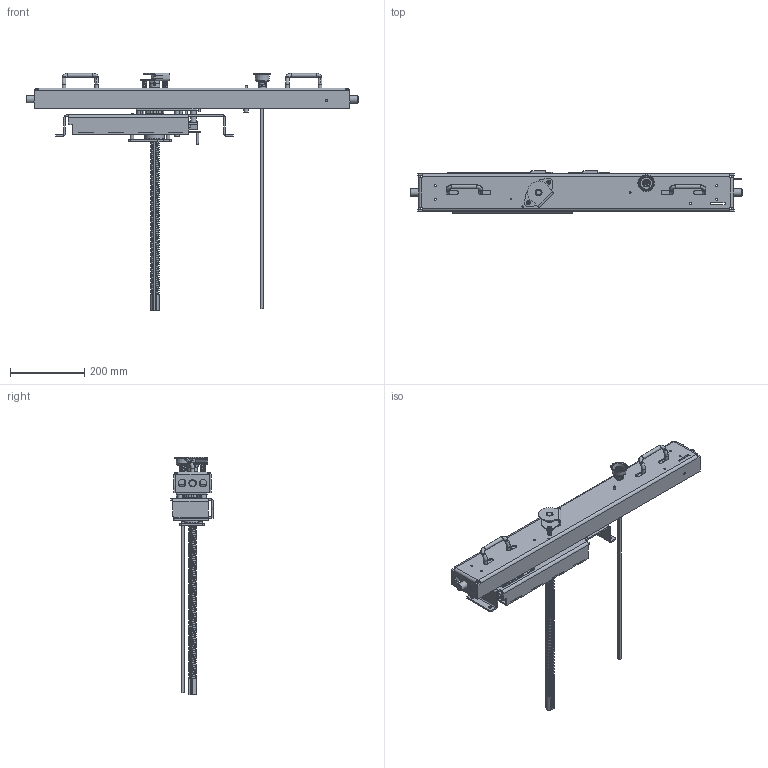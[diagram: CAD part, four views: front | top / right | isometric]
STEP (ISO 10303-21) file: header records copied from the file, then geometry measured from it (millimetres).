
FILE_DESCRIPTION(('STEP AP242'), '1');
FILE_NAME('ﾒﾂﾂ-ﾗﾝﾀﾇ-35', '', ('UNSPECIFIED'), ('UNSPECIFIED'), 'C3D Converter', 'C3D Toolkit', '');
FILE_SCHEMA(('AP242_MANAGED_MODEL_BASED_3D_ENGINEERING_MIM_LF { 1 0 10303 442 1 1 4 }'));
Length unit declared in the file: millimetre
Products named in the file (52): TB-35-OptiMat-BB; MV61C-L4506; НЖёЛA; MV61C-L4531; MV61C-L4505; Оў跚X2\040704570404211604280419041F04510417\X0\A; MV61C-L3511; MV61C-L4509; Оў跚X2\04070457040421160428\X0\琵X2\0427\X0\豹X2\0435\X0\A; MV61C-L3513; MV61C-L4508ЈЁС№ｻЙЈｩ; MV61C-L3510; MV61C-L4504ЈЁЛшｶ\X2\04X0041C04270408\X0\ｩ; 8.240.014; MV61C-L4526; MV61C-L4503; GTJ.8XJ.062.071.2; MV61C-L3504; MV61C-L4525; MV61C-L3506; miniature radial ball bearings gb_Rolling bearings FF61800  GB 7218-1995; MV61C-L3505; MV61C-L4522; MV61C-L4513; MV61C-L3502; MV61C-L4534; MV61C-L4511; 跚X2\0401041E\X0\蓋X2\041F044A\X0\; MV61C-L4533; MV61C-L3501; MV61C-L4540; MV61C-L3508; MV61C-L3501.1ЈЁｰОїйЈｩ; MV61C-L4523; MV61C-L3507.2; MV61C-L4501; 8XS.966.031; MV61C-L4539; 20130530; 8XS.253.076 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
Assembly tree (66 placements, depth 2):
  TB-35-OptiMat-BB
    MV61C-L4506
    НЖёЛA  x2
    MV61C-L4531  x2
    MV61C-L4505
    Оў跚X2\040704570404211604280419041F04510417\X0\A  x2
    MV61C-L3511
    MV61C-L4509
    Оў跚X2\04070457040421160428\X0\琵X2\0427\X0\豹X2\0435\X0\A  x2
    MV61C-L3513
    MV61C-L4508ЈЁС№ｻЙЈｩ
    MV61C-L3510
    MV61C-L4504ЈЁЛшｶ\X2\04X0041C04270408\X0\ｩ
    8.240.014
    MV61C-L4526
    MV61C-L4503
    GTJ.8XJ.062.071.2
    MV61C-L3504
    MV61C-L4525
    MV61C-L3506
    miniature radial ball bearings gb_Rolling bearings FF61800  GB 7218-1995  x2
    MV61C-L3505
    MV61C-L4522
    MV61C-L4513
    MV61C-L3502  x2
    MV61C-L4534
    MV61C-L4511  x2
    跚X2\0401041E\X0\蓋X2\041F044A\X0\  x4
    MV61C-L4533
    MV61C-L3501
    MV61C-L4540
    MV61C-L3508
    MV61C-L3501.1ЈЁｰОїйЈｩ
    MV61C-L4523
    MV61C-L3507.2
    MV61C-L4501
    8XS.966.031  x2
    MV61C-L4539
    20130530
    8XS.253.076   x2
    MV61C-L4529
    MV61C-L3509.5
    MV61C-L4528
    MV61C-L4510  x2
    MV61C-L4532
    MV61C-L4530
    MV61C-L4520
    MV61C-L3512
    MV61C-L3503
    MV61C-L4521
    MV61C-L4527  x2
    MV61C-L4512  x2
Bounding box: 893 x 115 x 640 mm (x, y, z)
Volume: 2202218.4 mm3; surface area: 1104659.5 mm2
Topology: 68 solids, 68 shells, 2878 faces, 8477 edges, 5598 vertices
Faces by surface type: cylinder 1359, plane 948, bspline 366, torus 120, cone 61, sphere 24
Full cylindrical faces by diameter (mm): 2 x3, 2.5 x1, 2.8 x2, 3 x16, 4 x7, 4.3 x8, 5 x41, 5.1 x5, 5.2 x7, 5.3 x1, 5.4 x2, 5.5 x16, 6 x11, 6.1 x2, 6.2 x8, 7.3 x1, 7.7 x2, 8 x17, 8.2 x4, 8.3 x4, 8.5 x13, 9.3 x2, 9.5 x1, 10 x19, 10.2 x1, 10.5 x2, 11 x8, 11.5 x2, 12 x11, 12.2 x1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
Entity records: 164357 total; most frequent: CARTESIAN_POINT 80793, ORIENTED_EDGE 13686, DIRECTION 10593, EDGE_CURVE 6843, VERTEX_POINT 4765, AXIS2_PLACEMENT_3D 3806, EDGE_LOOP 3146, LINE 2981
